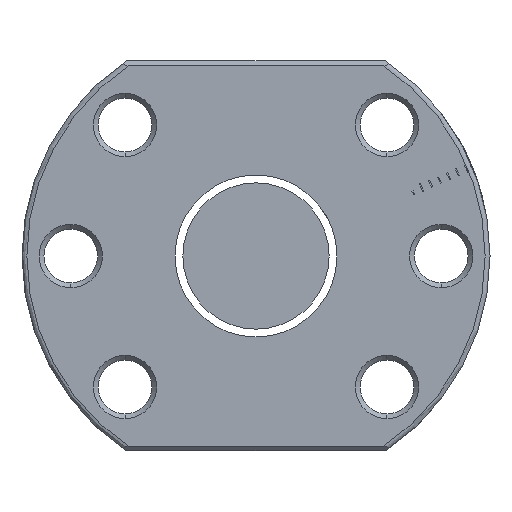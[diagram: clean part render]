
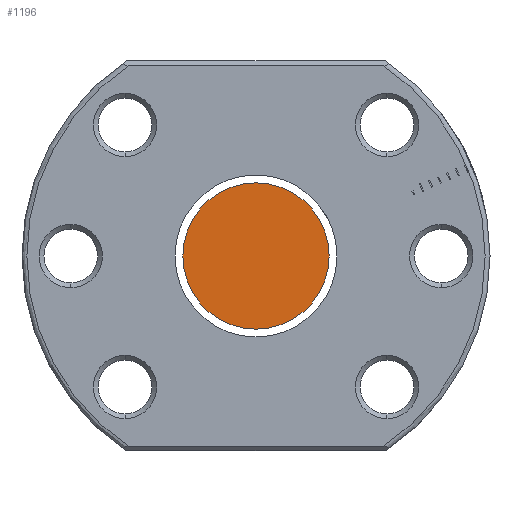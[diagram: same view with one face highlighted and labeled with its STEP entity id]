
A CAD part, left-side view. The second image highlights one B-rep face of the part: STEP entity #1196.
In plain terms, the highlighted planar face has unit normal (-1, 0, 0).
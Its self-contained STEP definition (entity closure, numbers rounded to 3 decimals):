
#1 = VERTEX_POINT ( 'NONE', #278 ) ;
#278 = CARTESIAN_POINT ( 'NONE',  ( -270., 0., 7.5 ) ) ;
#375 = DIRECTION ( 'NONE',  ( 1., 0., 0. ) ) ;
#558 = AXIS2_PLACEMENT_3D ( 'NONE', #1308, #375, #2213 ) ;
#658 = EDGE_LOOP ( 'NONE', ( #3291, #1839 ) ) ;
#852 = CIRCLE ( 'NONE', #558, 7.5 ) ;
#1196 = ADVANCED_FACE ( 'NONE', ( #3820 ), #5647, .T. ) ;
#1308 = CARTESIAN_POINT ( 'NONE',  ( -270., 0., 0. ) ) ;
#1319 = AXIS2_PLACEMENT_3D ( 'NONE', #1494, #5675, #3319 ) ;
#1494 = CARTESIAN_POINT ( 'NONE',  ( -270., 0., 0. ) ) ;
#1839 = ORIENTED_EDGE ( 'NONE', *, *, #3241, .F. ) ;
#2213 = DIRECTION ( 'NONE',  ( 0., 0., -1. ) ) ;
#3210 = CARTESIAN_POINT ( 'NONE',  ( -270., 0., 0. ) ) ;
#3241 = EDGE_CURVE ( 'NONE', #1, #5897, #3552, .T. ) ;
#3291 = ORIENTED_EDGE ( 'NONE', *, *, #5895, .F. ) ;
#3319 = DIRECTION ( 'NONE',  ( 0., 0., 1. ) ) ;
#3552 = CIRCLE ( 'NONE', #4331, 7.5 ) ;
#3820 = FACE_OUTER_BOUND ( 'NONE', #658, .T. ) ;
#4030 = CARTESIAN_POINT ( 'NONE',  ( -270., 0., -7.5 ) ) ;
#4331 = AXIS2_PLACEMENT_3D ( 'NONE', #3210, #4531, #5587 ) ;
#4531 = DIRECTION ( 'NONE',  ( 1., 0., 0. ) ) ;
#5587 = DIRECTION ( 'NONE',  ( 0., 0., -1. ) ) ;
#5647 = PLANE ( 'NONE',  #1319 ) ;
#5675 = DIRECTION ( 'NONE',  ( -1., 0., 0. ) ) ;
#5895 = EDGE_CURVE ( 'NONE', #5897, #1, #852, .T. ) ;
#5897 = VERTEX_POINT ( 'NONE', #4030 ) ;
